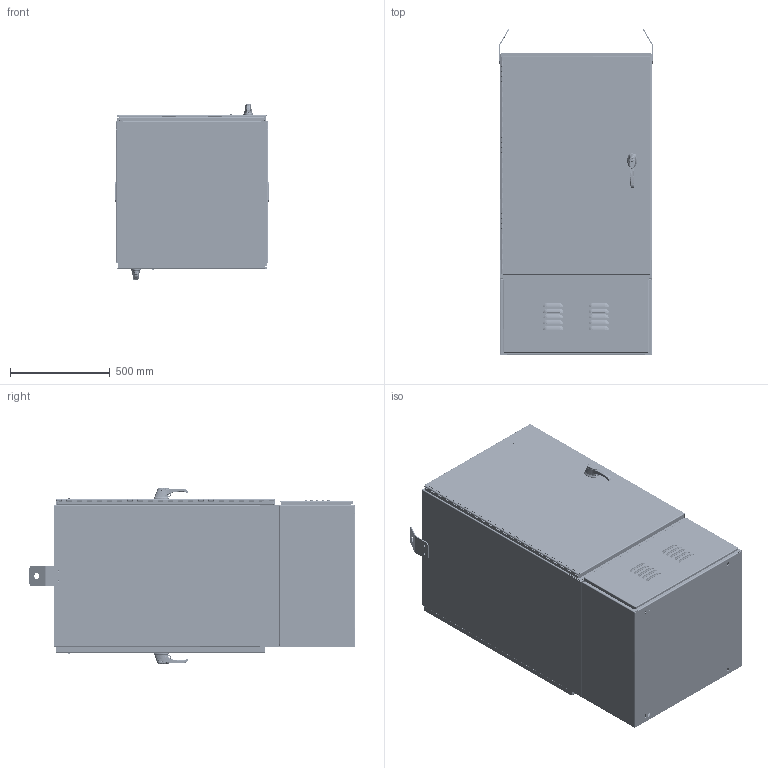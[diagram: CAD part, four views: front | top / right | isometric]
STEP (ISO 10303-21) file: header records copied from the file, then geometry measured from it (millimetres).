
FILE_DESCRIPTION (( 'STEP AP203' ), '1' );
FILE_NAME ('t503020fttxdab.STEP', '2011-04-18T19:34:56', ( 'Hoffman User' ), ( 'Hoffman Enclosures' ), 'SwSTEP 2.0', 'SolidWorks 2010', '' );
FILE_SCHEMA (( 'CONFIG_CONTROL_DESIGN' ));
Products named in the file (82): t503020fttxdab; 89065896_87920578; 89065891_89065891; 89065890_89065890; 89065893_89065893; 89065892_89059802; 87561605_Installed; 89065889_89065889; 89065888_89065888; 87920592_87920592; 87920598_87920598; 87561705_87561705; 89065897; 89065895_89065895; 89065894_89065894; 99404052_99404052; 99415470_99415470; 89064906; 89064903; 89063681; 89063691; 89063680; 89064904; 89064905; 87929874_87929873; 87578925_87578925; 89049937_89049937; 89049936_89049936; 87920576_87920576; 89049938_50 INCH FIP; 22131045; 87920588_87920588; 89064908; 89064907; 89063688; 89063687; 89063686; 89063685; 87935488; 89067161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
Assembly tree (212 placements, depth 5):
  t503020fttxdab
    89065896_87920578
      89064906
        89063691
          99404049_99404049  x2
          89063680
        89064905  x2
        89064903
        89064904
        89063681
      89065895_89065895
        99404052_99404052  x12
        99415470_99415470  x2
        89065894_89065894
      89065891_89065891
        99415470_99415470  x7
        99404050_99404050  x4
        89065897  x2
        87920592_87920592
        87920598_87920598
        87561705_87561705  x2
        89065890_89065890
      89065893_89065893
        87561605_Installed  x9
        99404049_99404049  x8
        89065892_89059802
      89065889_89065889
        87920598_87920598
        99415470_99415470  x7
        87561705_87561705  x2
        89065897  x2
        99404050_99404050  x2
        89065888_89065888
        87920592_87920592
    87578925_87578925  x2
    89063672_89063672
      22108007
      26118002_26118002  x2
      89065002_50 INCH FIP
      87560090
      99411366_93825A140  x2
      99401452  x2
      27115004  x2
      26123007_26123007 
      26274010_26274010  x2
        30101003
        22318002
        26273010_26273010
        27115001
      26123006
      89063671_89063671
        99404049_99404049  x4
        27301003  x2
        89063670_89063670
      87560001_Closed
        89048716
        89048714  x2
        89048719
        89048722
          89048720
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Bounding box: 773.33 x 1635.93 x 877.23 mm (x, y, z)
Volume: 28871146.7 mm3; surface area: 18714559.3 mm2
Topology: 226 solids, 226 shells, 19842 faces, 54417 edges, 35337 vertices
Faces by surface type: plane 9795, cylinder 5937, cone 2014, bspline 1486, torus 546, sphere 64
Entity records: 293973 total; most frequent: CARTESIAN_POINT 102079, ORIENTED_EDGE 38282, DIRECTION 35553, EDGE_CURVE 19141, AXIS2_PLACEMENT_3D 12470, VERTEX_POINT 12376, LINE 10613, VECTOR 10613
